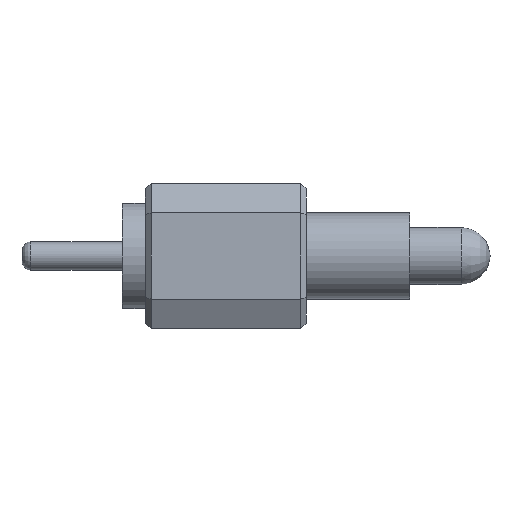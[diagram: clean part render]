
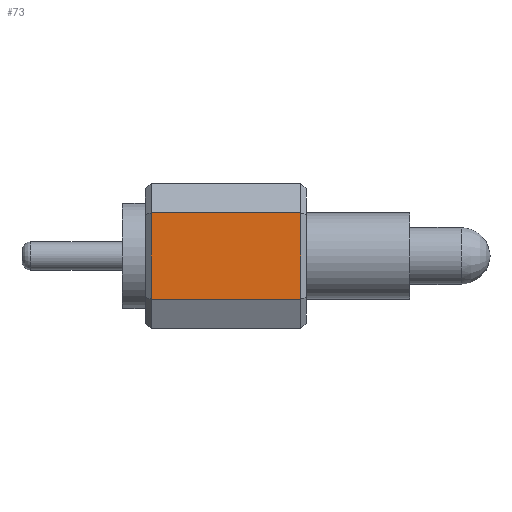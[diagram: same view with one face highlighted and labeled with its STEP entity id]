
A CAD part, front view. The second image highlights one B-rep face of the part: STEP entity #73.
In plain terms, the highlighted planar face has unit normal (0, -1, 0).
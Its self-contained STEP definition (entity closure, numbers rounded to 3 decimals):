
#73 = ADVANCED_FACE('',(#74),#88,.F.);
#74 = FACE_BOUND('',#75,.F.);
#75 = EDGE_LOOP('',(#76,#111,#139,#167));
#76 = ORIENTED_EDGE('',*,*,#77,.T.);
#77 = EDGE_CURVE('',#78,#80,#82,.T.);
#78 = VERTEX_POINT('',#79);
#79 = CARTESIAN_POINT('',(0.5,-1.27,0.75));
#80 = VERTEX_POINT('',#81);
#81 = CARTESIAN_POINT('',(3.1,-1.27,0.75));
#82 = SURFACE_CURVE('',#83,(#87,#99),.PCURVE_S1.);
#83 = LINE('',#84,#85);
#84 = CARTESIAN_POINT('',(0.4,-1.27,0.75));
#85 = VECTOR('',#86,1.);
#86 = DIRECTION('',(1.,0.,0.));
#87 = PCURVE('',#88,#93);
#88 = PLANE('',#89);
#89 = AXIS2_PLACEMENT_3D('',#90,#91,#92);
#90 = CARTESIAN_POINT('',(0.4,-1.27,0.75));
#91 = DIRECTION('',(0.,1.,0.));
#92 = DIRECTION('',(0.,0.,-1.));
#93 = DEFINITIONAL_REPRESENTATION('',(#94),#98);
#94 = LINE('',#95,#96);
#95 = CARTESIAN_POINT('',(0.,0.));
#96 = VECTOR('',#97,1.);
#97 = DIRECTION('',(0.,-1.));
#98 = ( GEOMETRIC_REPRESENTATION_CONTEXT(2) 
PARAMETRIC_REPRESENTATION_CONTEXT() REPRESENTATION_CONTEXT('2D SPACE',''
  ) );
#99 = PCURVE('',#100,#105);
#100 = PLANE('',#101);
#101 = AXIS2_PLACEMENT_3D('',#102,#103,#104);
#102 = CARTESIAN_POINT('',(0.4,-1.,1.27));
#103 = DIRECTION('',(0.,0.887,-0.461));
#104 = DIRECTION('',(0.,-0.461,-0.887));
#105 = DEFINITIONAL_REPRESENTATION('',(#106),#110);
#106 = LINE('',#107,#108);
#107 = CARTESIAN_POINT('',(0.586,0.));
#108 = VECTOR('',#109,1.);
#109 = DIRECTION('',(0.,-1.));
#110 = ( GEOMETRIC_REPRESENTATION_CONTEXT(2) 
PARAMETRIC_REPRESENTATION_CONTEXT() REPRESENTATION_CONTEXT('2D SPACE',''
  ) );
#111 = ORIENTED_EDGE('',*,*,#112,.T.);
#112 = EDGE_CURVE('',#80,#113,#115,.T.);
#113 = VERTEX_POINT('',#114);
#114 = CARTESIAN_POINT('',(3.1,-1.27,-0.75));
#115 = SURFACE_CURVE('',#116,(#120,#127),.PCURVE_S1.);
#116 = LINE('',#117,#118);
#117 = CARTESIAN_POINT('',(3.1,-1.27,0.75));
#118 = VECTOR('',#119,1.);
#119 = DIRECTION('',(0.,0.,-1.));
#120 = PCURVE('',#88,#121);
#121 = DEFINITIONAL_REPRESENTATION('',(#122),#126);
#122 = LINE('',#123,#124);
#123 = CARTESIAN_POINT('',(0.,-2.7));
#124 = VECTOR('',#125,1.);
#125 = DIRECTION('',(1.,0.));
#126 = ( GEOMETRIC_REPRESENTATION_CONTEXT(2) 
PARAMETRIC_REPRESENTATION_CONTEXT() REPRESENTATION_CONTEXT('2D SPACE',''
  ) );
#127 = PCURVE('',#128,#133);
#128 = PLANE('',#129);
#129 = AXIS2_PLACEMENT_3D('',#130,#131,#132);
#130 = CARTESIAN_POINT('',(3.15,-1.22,0.75));
#131 = DIRECTION('',(-0.707,0.707,0.));
#132 = DIRECTION('',(0.,0.,1.));
#133 = DEFINITIONAL_REPRESENTATION('',(#134),#138);
#134 = LINE('',#135,#136);
#135 = CARTESIAN_POINT('',(0.,-0.071));
#136 = VECTOR('',#137,1.);
#137 = DIRECTION('',(-1.,0.));
#138 = ( GEOMETRIC_REPRESENTATION_CONTEXT(2) 
PARAMETRIC_REPRESENTATION_CONTEXT() REPRESENTATION_CONTEXT('2D SPACE',''
  ) );
#139 = ORIENTED_EDGE('',*,*,#140,.F.);
#140 = EDGE_CURVE('',#141,#113,#143,.T.);
#141 = VERTEX_POINT('',#142);
#142 = CARTESIAN_POINT('',(0.5,-1.27,-0.75));
#143 = SURFACE_CURVE('',#144,(#148,#155),.PCURVE_S1.);
#144 = LINE('',#145,#146);
#145 = CARTESIAN_POINT('',(0.4,-1.27,-0.75));
#146 = VECTOR('',#147,1.);
#147 = DIRECTION('',(1.,0.,0.));
#148 = PCURVE('',#88,#149);
#149 = DEFINITIONAL_REPRESENTATION('',(#150),#154);
#150 = LINE('',#151,#152);
#151 = CARTESIAN_POINT('',(1.5,0.));
#152 = VECTOR('',#153,1.);
#153 = DIRECTION('',(0.,-1.));
#154 = ( GEOMETRIC_REPRESENTATION_CONTEXT(2) 
PARAMETRIC_REPRESENTATION_CONTEXT() REPRESENTATION_CONTEXT('2D SPACE',''
  ) );
#155 = PCURVE('',#156,#161);
#156 = PLANE('',#157);
#157 = AXIS2_PLACEMENT_3D('',#158,#159,#160);
#158 = CARTESIAN_POINT('',(0.4,-1.27,-0.75));
#159 = DIRECTION('',(0.,0.887,0.461));
#160 = DIRECTION('',(0.,0.461,-0.887));
#161 = DEFINITIONAL_REPRESENTATION('',(#162),#166);
#162 = LINE('',#163,#164);
#163 = CARTESIAN_POINT('',(0.,0.));
#164 = VECTOR('',#165,1.);
#165 = DIRECTION('',(0.,-1.));
#166 = ( GEOMETRIC_REPRESENTATION_CONTEXT(2) 
PARAMETRIC_REPRESENTATION_CONTEXT() REPRESENTATION_CONTEXT('2D SPACE',''
  ) );
#167 = ORIENTED_EDGE('',*,*,#168,.F.);
#168 = EDGE_CURVE('',#78,#141,#169,.T.);
#169 = SURFACE_CURVE('',#170,(#174,#181),.PCURVE_S1.);
#170 = LINE('',#171,#172);
#171 = CARTESIAN_POINT('',(0.5,-1.27,0.75));
#172 = VECTOR('',#173,1.);
#173 = DIRECTION('',(0.,0.,-1.));
#174 = PCURVE('',#88,#175);
#175 = DEFINITIONAL_REPRESENTATION('',(#176),#180);
#176 = LINE('',#177,#178);
#177 = CARTESIAN_POINT('',(0.,-0.1));
#178 = VECTOR('',#179,1.);
#179 = DIRECTION('',(1.,0.));
#180 = ( GEOMETRIC_REPRESENTATION_CONTEXT(2) 
PARAMETRIC_REPRESENTATION_CONTEXT() REPRESENTATION_CONTEXT('2D SPACE',''
  ) );
#181 = PCURVE('',#182,#187);
#182 = PLANE('',#183);
#183 = AXIS2_PLACEMENT_3D('',#184,#185,#186);
#184 = CARTESIAN_POINT('',(0.45,-1.22,0.75));
#185 = DIRECTION('',(-0.707,-0.707,-0.));
#186 = DIRECTION('',(0.,0.,1.));
#187 = DEFINITIONAL_REPRESENTATION('',(#188),#192);
#188 = LINE('',#189,#190);
#189 = CARTESIAN_POINT('',(0.,-0.071));
#190 = VECTOR('',#191,1.);
#191 = DIRECTION('',(-1.,0.));
#192 = ( GEOMETRIC_REPRESENTATION_CONTEXT(2) 
PARAMETRIC_REPRESENTATION_CONTEXT() REPRESENTATION_CONTEXT('2D SPACE',''
  ) );
